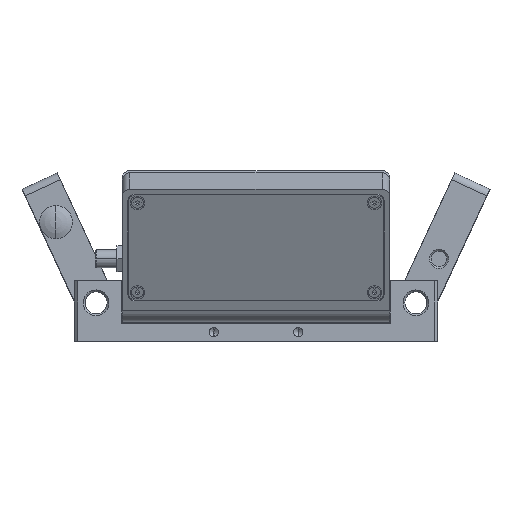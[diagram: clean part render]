
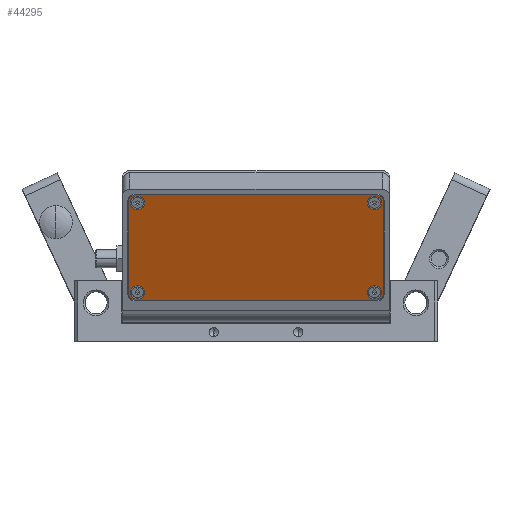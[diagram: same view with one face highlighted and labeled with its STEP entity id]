
A CAD part, left-side view. The second image highlights one B-rep face of the part: STEP entity #44295.
In plain terms, the highlighted planar face has unit normal (-0.907, 0, -0.421).
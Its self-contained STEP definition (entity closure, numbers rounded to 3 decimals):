
#73 = CARTESIAN_POINT ( 'NONE',  ( -80.4, -37.967, 26.671 ) ) ;
#77 = DIRECTION ( 'NONE',  ( 0., -1., 0. ) ) ;
#78 = DIRECTION ( 'NONE',  ( 0.907, 0., 0.421 ) ) ;
#79 = CARTESIAN_POINT ( 'NONE',  ( -69.107, 24.833, 2.366 ) ) ;
#80 = AXIS2_PLACEMENT_3D ( 'NONE', #79, #78, #77 ) ;
#81 = CIRCLE ( 'NONE', #80, 1.6 ) ;
#83 = CARTESIAN_POINT ( 'NONE',  ( -80.4, -41.167, 26.671 ) ) ;
#88 = CARTESIAN_POINT ( 'NONE',  ( -69.107, 23.233, 2.366 ) ) ;
#205 = CARTESIAN_POINT ( 'NONE',  ( -68.854, 27.233, 1.822 ) ) ;
#265 = DIRECTION ( 'NONE',  ( 0., -1., 0. ) ) ;
#266 = DIRECTION ( 'NONE',  ( 0.907, 0., 0.421 ) ) ;
#267 = CARTESIAN_POINT ( 'NONE',  ( -69.107, -39.567, 2.366 ) ) ;
#268 = AXIS2_PLACEMENT_3D ( 'NONE', #267, #266, #265 ) ;
#269 = CIRCLE ( 'NONE', #268, 1.6 ) ;
#281 = CARTESIAN_POINT ( 'NONE',  ( -68.096, 25.433, 0.19 ) ) ;
#282 = DIRECTION ( 'NONE',  ( 0., -1., 0. ) ) ;
#283 = DIRECTION ( 'NONE',  ( -0.907, 0., -0.421 ) ) ;
#284 = CARTESIAN_POINT ( 'NONE',  ( -68.854, 25.433, 1.822 ) ) ;
#285 = AXIS2_PLACEMENT_3D ( 'NONE', #284, #283, #282 ) ;
#286 = CIRCLE ( 'NONE', #285, 1.8 ) ;
#287 = CIRCLE ( 'NONE', #349, 1.8 ) ;
#299 = DIRECTION ( 'NONE',  ( 0.421, 0., -0.907 ) ) ;
#300 = VECTOR ( 'NONE', #299, 1000. ) ;
#301 = CARTESIAN_POINT ( 'NONE',  ( -80.653, 27.233, 27.215 ) ) ;
#302 = LINE ( 'NONE', #301, #300 ) ;
#303 = CARTESIAN_POINT ( 'NONE',  ( -80.653, 27.233, 27.215 ) ) ;
#330 = CARTESIAN_POINT ( 'NONE',  ( -68.854, -41.967, 1.822 ) ) ;
#331 = DIRECTION ( 'NONE',  ( 0., -1., 0. ) ) ;
#332 = DIRECTION ( 'NONE',  ( -0.907, 0., -0.421 ) ) ;
#333 = CARTESIAN_POINT ( 'NONE',  ( -68.854, -40.167, 1.822 ) ) ;
#334 = AXIS2_PLACEMENT_3D ( 'NONE', #333, #332, #331 ) ;
#335 = CIRCLE ( 'NONE', #334, 1.8 ) ;
#336 = CARTESIAN_POINT ( 'NONE',  ( -68.096, -40.167, 0.19 ) ) ;
#337 = DIRECTION ( 'NONE',  ( 0., -1., 0. ) ) ;
#338 = DIRECTION ( 'NONE',  ( 0.907, 0., 0.421 ) ) ;
#339 = CARTESIAN_POINT ( 'NONE',  ( -80.4, 24.833, 26.671 ) ) ;
#340 = AXIS2_PLACEMENT_3D ( 'NONE', #339, #338, #337 ) ;
#341 = CIRCLE ( 'NONE', #340, 1.6 ) ;
#342 = DIRECTION ( 'NONE',  ( 0., -1., 0. ) ) ;
#343 = VECTOR ( 'NONE', #342, 1000. ) ;
#344 = CARTESIAN_POINT ( 'NONE',  ( -68.096, 25.433, 0.19 ) ) ;
#345 = LINE ( 'NONE', #344, #343 ) ;
#346 = DIRECTION ( 'NONE',  ( 0., -1., 0. ) ) ;
#347 = DIRECTION ( 'NONE',  ( -0.907, 0., -0.421 ) ) ;
#348 = CARTESIAN_POINT ( 'NONE',  ( -80.653, -40.167, 27.215 ) ) ;
#349 = AXIS2_PLACEMENT_3D ( 'NONE', #348, #347, #346 ) ;
#350 = DIRECTION ( 'NONE',  ( 0., -1., 0. ) ) ;
#351 = DIRECTION ( 'NONE',  ( -0.907, 0., -0.421 ) ) ;
#352 = CARTESIAN_POINT ( 'NONE',  ( -80.653, 25.433, 27.215 ) ) ;
#353 = AXIS2_PLACEMENT_3D ( 'NONE', #352, #351, #350 ) ;
#354 = CIRCLE ( 'NONE', #353, 1.8 ) ;
#363 = CARTESIAN_POINT ( 'NONE',  ( -80.653, -41.967, 27.215 ) ) ;
#364 = DIRECTION ( 'NONE',  ( -0.421, 0., 0.907 ) ) ;
#365 = VECTOR ( 'NONE', #364, 1000. ) ;
#366 = CARTESIAN_POINT ( 'NONE',  ( -68.854, -41.967, 1.822 ) ) ;
#367 = LINE ( 'NONE', #366, #365 ) ;
#374 = DIRECTION ( 'NONE',  ( 0., -1., 0. ) ) ;
#375 = DIRECTION ( 'NONE',  ( -0.907, 0., -0.421 ) ) ;
#376 = CARTESIAN_POINT ( 'NONE',  ( -68.854, -40.167, 1.822 ) ) ;
#377 = AXIS2_PLACEMENT_3D ( 'NONE', #376, #375, #374 ) ;
#379 = PLANE ( 'NONE',  #377 ) ;
#394 = FACE_OUTER_BOUND ( 'NONE', #44271, .T. ) ;
#395 = FACE_BOUND ( 'NONE', #43639, .T. ) ;
#396 = FACE_BOUND ( 'NONE', #44114, .T. ) ;
#397 = FACE_BOUND ( 'NONE', #43789, .T. ) ;
#398 = FACE_BOUND ( 'NONE', #43643, .T. ) ;
#43419 = EDGE_CURVE ( 'NONE', #43420, #43630, #47698, .T. ) ;
#43420 = VERTEX_POINT ( 'NONE', #47693 ) ;
#43448 = EDGE_CURVE ( 'NONE', #43451, #43774, #47730, .T. ) ;
#43451 = VERTEX_POINT ( 'NONE', #47722 ) ;
#43622 = EDGE_CURVE ( 'NONE', #43926, #43953, #50712, .T. ) ;
#43630 = VERTEX_POINT ( 'NONE', #50703 ) ;
#43639 = EDGE_LOOP ( 'NONE', ( #44250, #44252 ) ) ;
#43643 = EDGE_LOOP ( 'NONE', ( #44063, #43649 ) ) ;
#43649 = ORIENTED_EDGE ( 'NONE', *, *, #43650, .T. ) ;
#43650 = EDGE_CURVE ( 'NONE', #43656, #43907, #50775, .T. ) ;
#43656 = VERTEX_POINT ( 'NONE', #50766 ) ;
#43747 = ORIENTED_EDGE ( 'NONE', *, *, #43622, .T. ) ;
#43750 = ORIENTED_EDGE ( 'NONE', *, *, #43752, .T. ) ;
#43752 = EDGE_CURVE ( 'NONE', #43953, #43926, #50825, .T. ) ;
#43774 = VERTEX_POINT ( 'NONE', #50820 ) ;
#43789 = EDGE_LOOP ( 'NONE', ( #44268, #44111 ) ) ;
#43790 = VERTEX_POINT ( 'NONE', #50857 ) ;
#43792 = ORIENTED_EDGE ( 'NONE', *, *, #43793, .T. ) ;
#43793 = EDGE_CURVE ( 'NONE', #43790, #43795, #50856, .T. ) ;
#43795 = VERTEX_POINT ( 'NONE', #50852 ) ;
#43907 = VERTEX_POINT ( 'NONE', #88 ) ;
#43926 = VERTEX_POINT ( 'NONE', #83 ) ;
#43928 = EDGE_CURVE ( 'NONE', #43907, #43656, #81, .T. ) ;
#43953 = VERTEX_POINT ( 'NONE', #73 ) ;
#44063 = ORIENTED_EDGE ( 'NONE', *, *, #43928, .T. ) ;
#44071 = VERTEX_POINT ( 'NONE', #205 ) ;
#44073 = ORIENTED_EDGE ( 'NONE', *, *, #44075, .T. ) ;
#44075 = EDGE_CURVE ( 'NONE', #44071, #44077, #286, .T. ) ;
#44077 = VERTEX_POINT ( 'NONE', #281 ) ;
#44111 = ORIENTED_EDGE ( 'NONE', *, *, #44112, .T. ) ;
#44112 = EDGE_CURVE ( 'NONE', #43630, #43420, #269, .T. ) ;
#44114 = EDGE_LOOP ( 'NONE', ( #43747, #43750 ) ) ;
#44243 = VERTEX_POINT ( 'NONE', #303 ) ;
#44245 = ORIENTED_EDGE ( 'NONE', *, *, #44247, .T. ) ;
#44247 = EDGE_CURVE ( 'NONE', #44243, #44071, #302, .T. ) ;
#44250 = ORIENTED_EDGE ( 'NONE', *, *, #43448, .T. ) ;
#44252 = ORIENTED_EDGE ( 'NONE', *, *, #44269, .T. ) ;
#44259 = ORIENTED_EDGE ( 'NONE', *, *, #44261, .T. ) ;
#44261 = EDGE_CURVE ( 'NONE', #44281, #43790, #287, .T. ) ;
#44263 = ORIENTED_EDGE ( 'NONE', *, *, #44266, .T. ) ;
#44266 = EDGE_CURVE ( 'NONE', #44077, #44274, #345, .T. ) ;
#44268 = ORIENTED_EDGE ( 'NONE', *, *, #43419, .T. ) ;
#44269 = EDGE_CURVE ( 'NONE', #43774, #43451, #341, .T. ) ;
#44271 = EDGE_LOOP ( 'NONE', ( #44272, #44278, #44259, #43792, #44291, #44245, #44073, #44263 ) ) ;
#44272 = ORIENTED_EDGE ( 'NONE', *, *, #44275, .T. ) ;
#44274 = VERTEX_POINT ( 'NONE', #336 ) ;
#44275 = EDGE_CURVE ( 'NONE', #44274, #44276, #335, .T. ) ;
#44276 = VERTEX_POINT ( 'NONE', #330 ) ;
#44278 = ORIENTED_EDGE ( 'NONE', *, *, #44279, .T. ) ;
#44279 = EDGE_CURVE ( 'NONE', #44276, #44281, #367, .T. ) ;
#44281 = VERTEX_POINT ( 'NONE', #363 ) ;
#44291 = ORIENTED_EDGE ( 'NONE', *, *, #44292, .T. ) ;
#44292 = EDGE_CURVE ( 'NONE', #43795, #44243, #354, .T. ) ;
#44295 = ADVANCED_FACE ( 'NONE', ( #398, #397, #396, #395, #394 ), #379, .T. ) ;
#47693 = CARTESIAN_POINT ( 'NONE',  ( -69.107, -41.167, 2.366 ) ) ;
#47694 = DIRECTION ( 'NONE',  ( 0., -1., 0. ) ) ;
#47695 = DIRECTION ( 'NONE',  ( 0.907, 0., 0.421 ) ) ;
#47696 = CARTESIAN_POINT ( 'NONE',  ( -69.107, -39.567, 2.366 ) ) ;
#47697 = AXIS2_PLACEMENT_3D ( 'NONE', #47696, #47695, #47694 ) ;
#47698 = CIRCLE ( 'NONE', #47697, 1.6 ) ;
#47722 = CARTESIAN_POINT ( 'NONE',  ( -80.4, 23.233, 26.671 ) ) ;
#47723 = DIRECTION ( 'NONE',  ( 0., -1., 0. ) ) ;
#47724 = DIRECTION ( 'NONE',  ( 0.907, 0., 0.421 ) ) ;
#47725 = CARTESIAN_POINT ( 'NONE',  ( -80.4, 24.833, 26.671 ) ) ;
#47726 = AXIS2_PLACEMENT_3D ( 'NONE', #47725, #47724, #47723 ) ;
#47730 = CIRCLE ( 'NONE', #47726, 1.6 ) ;
#50703 = CARTESIAN_POINT ( 'NONE',  ( -69.107, -37.967, 2.366 ) ) ;
#50708 = DIRECTION ( 'NONE',  ( 0., -1., 0. ) ) ;
#50709 = DIRECTION ( 'NONE',  ( 0.907, 0., 0.421 ) ) ;
#50710 = CARTESIAN_POINT ( 'NONE',  ( -80.4, -39.567, 26.671 ) ) ;
#50711 = AXIS2_PLACEMENT_3D ( 'NONE', #50710, #50709, #50708 ) ;
#50712 = CIRCLE ( 'NONE', #50711, 1.6 ) ;
#50766 = CARTESIAN_POINT ( 'NONE',  ( -69.107, 26.433, 2.366 ) ) ;
#50767 = DIRECTION ( 'NONE',  ( 0., -1., 0. ) ) ;
#50768 = DIRECTION ( 'NONE',  ( 0.907, 0., 0.421 ) ) ;
#50769 = CARTESIAN_POINT ( 'NONE',  ( -69.107, 24.833, 2.366 ) ) ;
#50770 = AXIS2_PLACEMENT_3D ( 'NONE', #50769, #50768, #50767 ) ;
#50775 = CIRCLE ( 'NONE', #50770, 1.6 ) ;
#50820 = CARTESIAN_POINT ( 'NONE',  ( -80.4, 26.433, 26.671 ) ) ;
#50821 = DIRECTION ( 'NONE',  ( 0., -1., 0. ) ) ;
#50822 = DIRECTION ( 'NONE',  ( 0.907, 0., 0.421 ) ) ;
#50823 = CARTESIAN_POINT ( 'NONE',  ( -80.4, -39.567, 26.671 ) ) ;
#50824 = AXIS2_PLACEMENT_3D ( 'NONE', #50823, #50822, #50821 ) ;
#50825 = CIRCLE ( 'NONE', #50824, 1.6 ) ;
#50852 = CARTESIAN_POINT ( 'NONE',  ( -81.411, 25.433, 28.847 ) ) ;
#50853 = DIRECTION ( 'NONE',  ( 0., 1., 0. ) ) ;
#50854 = VECTOR ( 'NONE', #50853, 1000. ) ;
#50855 = CARTESIAN_POINT ( 'NONE',  ( -81.411, -40.167, 28.847 ) ) ;
#50856 = LINE ( 'NONE', #50855, #50854 ) ;
#50857 = CARTESIAN_POINT ( 'NONE',  ( -81.411, -40.167, 28.847 ) ) ;
